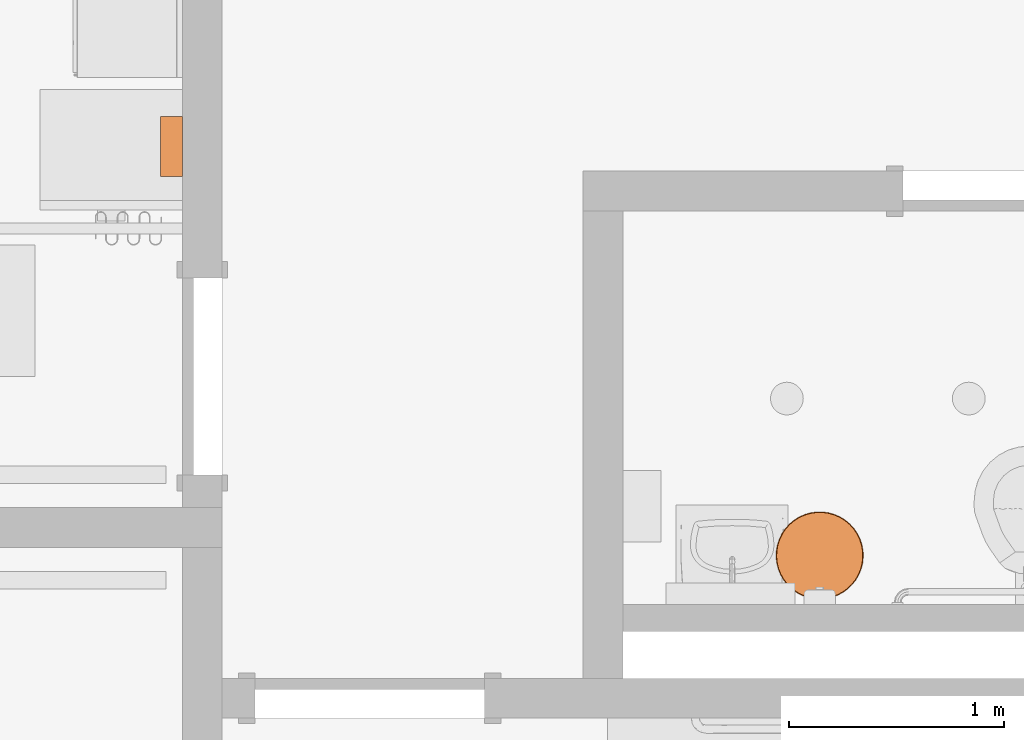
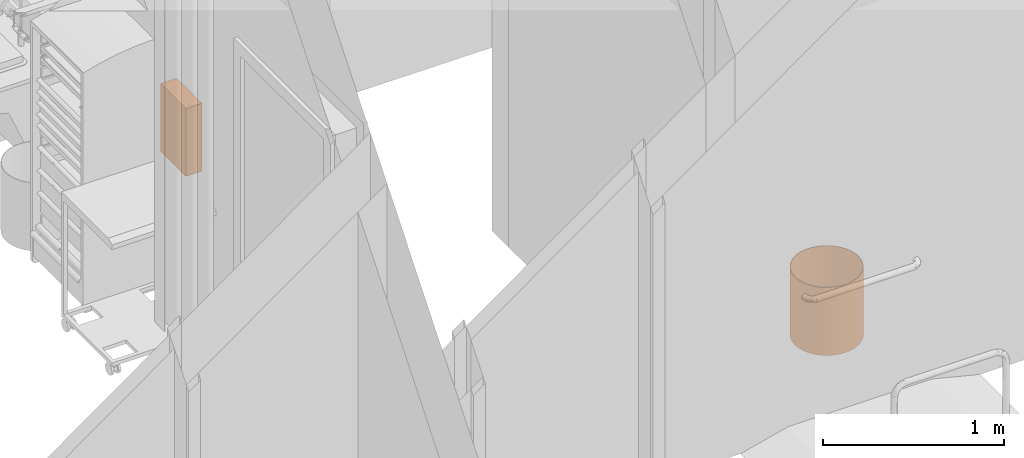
# One storey, part 73 of 142: 2 proxies.
"""IFC2X3 building model written with IfcOpenShell, lengths in feet."""

from ifc_helpers import new_model, entity, si_unit, converted_unit, derived_unit, direction, frame, frame_2d, origin, place, context, subcontext, project, spatial, rectangle, circle, hollow_circle, extrude, source, transform, mapped, type_object, type_shapes, element, save


model = new_model("IFC2X3")

# Units and contexts
model_context = context("Model", 3, precision=0.0001, world=origin(), true_north=direction((6.12303176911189e-17, 1.0)))
body_context = subcontext(model_context, "Body", "Model", "MODEL_VIEW")
ifc_project = project(units=[converted_unit("LENGTHUNIT", "FOOT", entity("IfcRatioMeasure", 0.3048), si_unit("LENGTHUNIT", "METRE"), dimensions=[1, 0, 0, 0, 0, 0, 0]), converted_unit("AREAUNIT", "SQUARE FOOT", entity("IfcRatioMeasure", 0.09290304), si_unit("AREAUNIT", "SQUARE_METRE"), dimensions=[2, 0, 0, 0, 0, 0, 0]), converted_unit("VOLUMEUNIT", "CUBIC FOOT", entity("IfcRatioMeasure", 0.028316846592), si_unit("VOLUMEUNIT", "CUBIC_METRE"), dimensions=[3, 0, 0, 0, 0, 0, 0]), converted_unit("PLANEANGLEUNIT", "DEGREE", entity("IfcRatioMeasure", 0.0174532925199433), si_unit("PLANEANGLEUNIT", "RADIAN"), dimensions=[0, 0, 0, 0, 0, 0, 0]), si_unit("MASSUNIT", "GRAM", prefix="KILO"), derived_unit("MASSDENSITYUNIT", [(si_unit("MASSUNIT", "GRAM", prefix="KILO"), 1), (si_unit("LENGTHUNIT", "METRE"), -3)]), si_unit("TIMEUNIT", "SECOND"), si_unit("FREQUENCYUNIT", "HERTZ"), si_unit("THERMODYNAMICTEMPERATUREUNIT", "DEGREE_CELSIUS"), derived_unit("THERMALTRANSMITTANCEUNIT", [(si_unit("MASSUNIT", "GRAM", prefix="KILO"), 1), (si_unit("THERMODYNAMICTEMPERATUREUNIT", "KELVIN"), -1), (si_unit("TIMEUNIT", "SECOND"), -3)]), derived_unit("VOLUMETRICFLOWRATEUNIT", [(si_unit("LENGTHUNIT", "METRE"), 3), (si_unit("TIMEUNIT", "SECOND"), -1)]), si_unit("ELECTRICCURRENTUNIT", "AMPERE"), si_unit("ELECTRICVOLTAGEUNIT", "VOLT"), si_unit("POWERUNIT", "WATT"), si_unit("FORCEUNIT", "NEWTON"), si_unit("ILLUMINANCEUNIT", "LUX"), si_unit("LUMINOUSFLUXUNIT", "LUMEN"), si_unit("LUMINOUSINTENSITYUNIT", "CANDELA"), derived_unit("USERDEFINED", [(si_unit("MASSUNIT", "GRAM", prefix="KILO"), -1), (si_unit("LENGTHUNIT", "METRE"), -2), (si_unit("TIMEUNIT", "SECOND"), 3), (si_unit("LUMINOUSFLUXUNIT", "LUMEN"), 1)]), derived_unit("LINEARVELOCITYUNIT", [(si_unit("LENGTHUNIT", "METRE"), 1), (si_unit("TIMEUNIT", "SECOND"), -1)]), si_unit("PRESSUREUNIT", "PASCAL"), derived_unit("USERDEFINED", [(si_unit("LENGTHUNIT", "METRE"), -2), (si_unit("MASSUNIT", "GRAM", prefix="KILO"), 1), (si_unit("TIMEUNIT", "SECOND"), -2)])], contexts=[model_context])

# Site, building, storey, space
site_placement = place(None, origin())
site = spatial("IfcSite", under=ifc_project, at=site_placement, Name="Default", CompositionType="ELEMENT")
building_placement = place(site_placement, origin())
building = spatial("IfcBuilding", under=site, at=building_placement, Name="OUTPATIENT / PACT CLINIC (Ch. 265)", CompositionType="ELEMENT")
storey_placement = place(building_placement, origin())
storey = spatial("IfcBuildingStorey", under=building, at=storey_placement, Name="LEVEL 1", CompositionType="ELEMENT", Elevation=0.0)
space_1_placement = place(storey_placement, origin())
space_1 = spatial("IfcSpace", under=storey, at=space_1_placement, Name="TNPG1", CompositionType="ELEMENT", InteriorOrExteriorSpace="INTERNAL")

# Proxy
building_element_proxy_type_1 = type_object("IfcBuildingElementProxyType", Name="F2000 - Basket, Wastepaper", PredefinedType="NOTDEFINED")
shared_shape_1 = source(origin(), body_context, "Body", "SweptSolid", [
    extrude(circle(Radius=0.666666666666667, at=frame_2d((0.0, -3.14944602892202e-15), x_axis=(1.0, 0.0))), origin(), (0.0, 0.0, 1.0), 0.0104166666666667),
    extrude(hollow_circle(Radius=0.666666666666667, WallThickness=0.0104166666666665, at=frame_2d((0.0, -3.14944602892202e-15), x_axis=(1.0, 0.0))), frame((0.0, 0.0, 0.0104166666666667)), (0.0, 0.0, 1.0), 1.48958333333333),
])
type_shapes(building_element_proxy_type_1, [shared_shape_1])
proxy_1_placement = place(space_1_placement, frame((413.171643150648, -946.774655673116, 0.0), z_axis=(0.0, 0.0, 1.0), x_axis=(0.0, -1.0, 0.0)))
element("IfcBuildingElementProxy", 1, at=proxy_1_placement, inside=space_1, type_object=building_element_proxy_type_1, Name="F2000 - Basket, Wastepaper:F2000 - Basket, Wastepaper", ObjectType="F2000 - Basket, Wastepaper", context=body_context, shape_type="MappedRepresentation", body=[
    mapped(shared_shape_1, transform((0.0, 0.0, 0.0), scale=1.0)),
])

# Space
space_2_placement = place(storey_placement, origin())
space_2 = spatial("IfcSpace", under=storey, at=space_2_placement, Name="TRPR1", CompositionType="ELEMENT", InteriorOrExteriorSpace="INTERNAL")

# Proxy
building_element_proxy_type_2 = type_object("IfcBuildingElementProxyType", Name="A5107 - Dispenser, Glove, Surgical-Examination, Wall Mntd 10\"x 4\"", PredefinedType="NOTDEFINED")
shared_shape_2 = source(origin(), body_context, "Body", "SweptSolid", [
    extrude(rectangle(XDim=0.333333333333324, YDim=0.916666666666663, at=frame_2d((-1.38777878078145e-17, 0.0), x_axis=(1.0, 0.0))), frame((0.0, 0.166666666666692, 0.0), z_axis=(0.0, 0.0, 1.0), x_axis=(0.0, 1.0, 0.0)), (0.0, 0.0, 1.0), 1.5),
])
type_shapes(building_element_proxy_type_2, [shared_shape_2])
proxy_2_placement = place(space_2_placement, frame((403.463309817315, -940.545518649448, 3.5), z_axis=(0.0, 0.0, 1.0), x_axis=(0.0, 1.0, 0.0)))
element("IfcBuildingElementProxy", 2, at=proxy_2_placement, inside=space_2, type_object=building_element_proxy_type_2, Name="A5107 - Dispenser, Glove, Surgical-Examination, Wall Mntd1:A5107 - Dispenser, Glove, Surgical-Examination, Wall Mntd 10\"x 4\"", ObjectType="A5107 - Dispenser, Glove, Surgical-Examination, Wall Mntd 10\"x 4\"", context=body_context, shape_type="MappedRepresentation", body=[
    mapped(shared_shape_2, transform((0.0, 0.0, 0.0), scale=1.0)),
])

save(model, "model.ifc")
